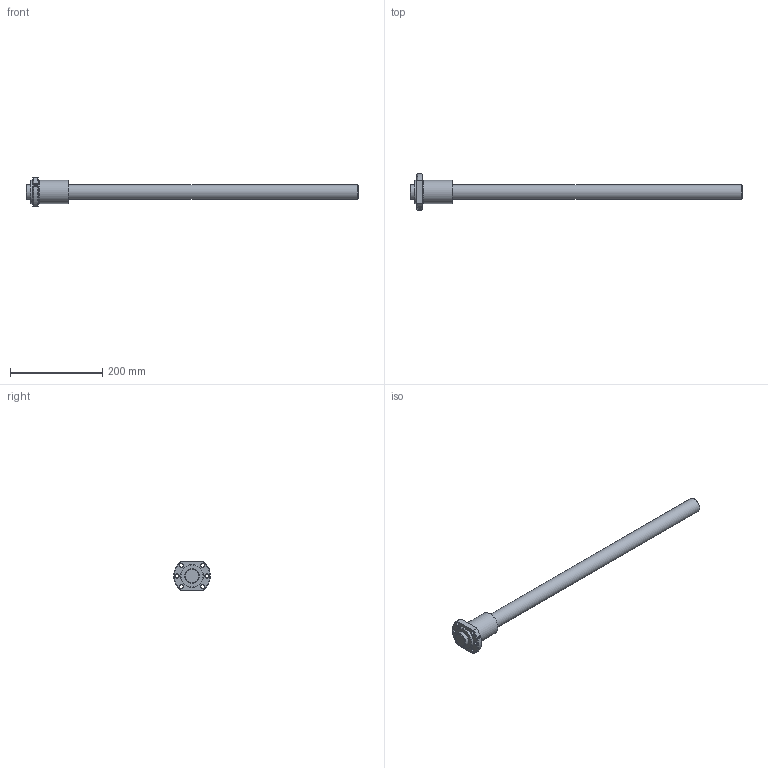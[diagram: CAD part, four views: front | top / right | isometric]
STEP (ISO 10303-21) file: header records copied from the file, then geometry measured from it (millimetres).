
FILE_DESCRIPTION(/* description */ ('STEP AP214'),/* implementation_level */ '2;1');
FILE_NAME(/* name */ 'EBB3210-3RRG0+720LC0-ebb2(618G000)-ebb2',/* time_stamp */ '2023-08-03T12:49:04+02:00',/* author */ ('License CC BY-ND 4.0'),/* organization */ ('CADENAS'),/* preprocessor_version */ 'ST-DEVELOPER v19.3',/* originating_system */ 'PARTsolutions',/* authorisation */ ' ');
FILE_SCHEMA (('AUTOMOTIVE_DESIGN {1 0 10303 214 3 1 1}'));
Length unit declared in the file: millimetre
Products named in the file (3): EBB3210-3RRG0+720LC0-ebb2(618G000)-ebb2; EBB 3210-3RR Nut2; EBB 3210-36180 Shaft2
Assembly tree (2 placements, depth 2):
  EBB3210-3RRG0+720LC0-ebb2(618G000)-ebb2
    EBB 3210-3RR Nut2
    EBB 3210-36180 Shaft2
Bounding box: 720 x 79.74 x 62 mm (x, y, z)
Volume: 697077.5 mm3; surface area: 104794.9 mm2
Topology: 2 solids, 2 shells, 32 faces, 72 edges, 47 vertices
Faces by surface type: cylinder 14, cone 9, plane 9
Full cylindrical faces by diameter (mm): 4.917 x1, 9 x6, 32 x2, 47 x1, 50 x2
Entity records: 935 total; most frequent: CARTESIAN_POINT 177, DIRECTION 148, ORIENTED_EDGE 106, AXIS2_PLACEMENT_3D 70, EDGE_LOOP 68, FACE_BOUND 68, EDGE_CURVE 53, VERTEX_POINT 45
